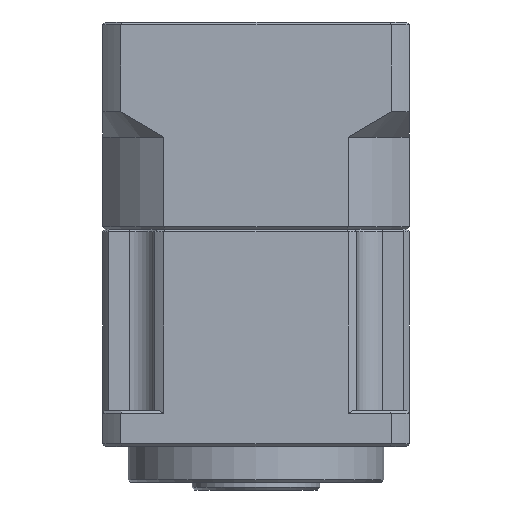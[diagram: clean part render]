
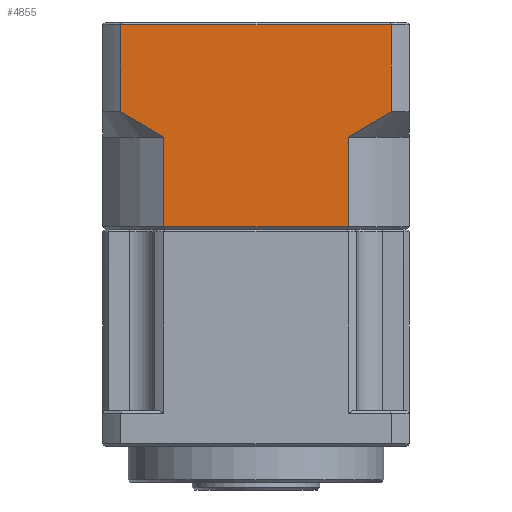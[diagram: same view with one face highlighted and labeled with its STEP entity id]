
A CAD part, front view. The second image highlights one B-rep face of the part: STEP entity #4855.
In plain terms, the highlighted planar face has unit normal (0, -1, 0).
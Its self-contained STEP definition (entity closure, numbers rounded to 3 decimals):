
#439 = LINE ( 'NONE', #63417, #80439 ) ;
#525 = EDGE_CURVE ( 'NONE', #92907, #13170, #67907, .T. ) ;
#1666 = CARTESIAN_POINT ( 'NONE',  ( -68.291, -7.256, 19.452 ) ) ;
#4446 = VERTEX_POINT ( 'NONE', #58551 ) ;
#4855 = ADVANCED_FACE ( 'NONE', ( #85847 ), #22156, .T. ) ;
#5202 = CARTESIAN_POINT ( 'NONE',  ( -18.121, -7.256, 0.675 ) ) ;
#7039 = ORIENTED_EDGE ( 'NONE', *, *, #18182, .F. ) ;
#9218 = EDGE_CURVE ( 'NONE', #61499, #39235, #41222, .T. ) ;
#9900 = CARTESIAN_POINT ( 'NONE',  ( -66.927, -7.256, 1.549 ) ) ;
#12057 = CARTESIAN_POINT ( 'NONE',  ( -23.806, -7.256, -39.775 ) ) ;
#12629 = VECTOR ( 'NONE', #65584, 1000. ) ;
#13113 = AXIS2_PLACEMENT_3D ( 'NONE', #35352, #72595, #29388 ) ;
#13170 = VERTEX_POINT ( 'NONE', #78546 ) ;
#14319 = CARTESIAN_POINT ( 'NONE',  ( -59.862, -7.256, -2.548 ) ) ;
#15142 = ORIENTED_EDGE ( 'NONE', *, *, #28683, .F. ) ;
#16237 = CARTESIAN_POINT ( 'NONE',  ( -59.862, -7.256, -2.548 ) ) ;
#18182 = EDGE_CURVE ( 'NONE', #4446, #92907, #439, .T. ) ;
#19230 = VERTEX_POINT ( 'NONE', #14319 ) ;
#19870 = CARTESIAN_POINT ( 'NONE',  ( -23.806, -7.256, -2.548 ) ) ;
#22156 = PLANE ( 'NONE',  #13113 ) ;
#23317 = DIRECTION ( 'NONE',  ( -1., 0., 0. ) ) ;
#28162 = ORIENTED_EDGE ( 'NONE', *, *, #525, .F. ) ;
#28683 = EDGE_CURVE ( 'NONE', #13170, #50201, #47135, .T. ) ;
#29054 = CARTESIAN_POINT ( 'NONE',  ( -15.376, -7.256, -39.775 ) ) ;
#29388 = DIRECTION ( 'NONE',  ( 0., 0., -1. ) ) ;
#30371 = CARTESIAN_POINT ( 'NONE',  ( -68.291, -7.256, 2.452 ) ) ;
#30991 = CARTESIAN_POINT ( 'NONE',  ( -65.547, -7.256, 0.675 ) ) ;
#32671 = LINE ( 'NONE', #50183, #77836 ) ;
#33308 = VECTOR ( 'NONE', #23317, 1000. ) ;
#34132 = CARTESIAN_POINT ( 'NONE',  ( -20.927, -7.256, -0.999 ) ) ;
#35352 = CARTESIAN_POINT ( 'NONE',  ( -11.834, -7.256, -20.548 ) ) ;
#36267 = DIRECTION ( 'NONE',  ( 0., 0., -1. ) ) ;
#39235 = VERTEX_POINT ( 'NONE', #69612 ) ;
#39919 = LINE ( 'NONE', #12057, #51303 ) ;
#41222 = LINE ( 'NONE', #58636, #33308 ) ;
#43117 = ORIENTED_EDGE ( 'NONE', *, *, #87132, .F. ) ;
#47135 = LINE ( 'NONE', #29054, #73122 ) ;
#49802 = VERTEX_POINT ( 'NONE', #19870 ) ;
#50183 = CARTESIAN_POINT ( 'NONE',  ( -59.862, -7.256, -39.775 ) ) ;
#50201 = VERTEX_POINT ( 'NONE', #70197 ) ;
#51303 = VECTOR ( 'NONE', #54650, 1000. ) ;
#51757 = DIRECTION ( 'NONE',  ( 0., 0., 1. ) ) ;
#52234 = ORIENTED_EDGE ( 'NONE', *, *, #59996, .F. ) ;
#54650 = DIRECTION ( 'NONE',  ( 0., 0., -1. ) ) ;
#54749 = CARTESIAN_POINT ( 'NONE',  ( -15.376, -7.256, 2.452 ) ) ;
#55449 = EDGE_CURVE ( 'NONE', #49802, #61499, #39919, .T. ) ;
#57122 = DIRECTION ( 'NONE',  ( 0., 0., 1. ) ) ;
#58551 = CARTESIAN_POINT ( 'NONE',  ( -68.291, -7.256, 2.452 ) ) ;
#58636 = CARTESIAN_POINT ( 'NONE',  ( -11.834, -7.256, -20.048 ) ) ;
#59996 = EDGE_CURVE ( 'NONE', #50201, #49802, #61883, .T. ) ;
#60248 = B_SPLINE_CURVE_WITH_KNOTS ( 'NONE', 3,
 ( #16237, #66692, #88030, #30991, #9900, #30371 ),
 .UNSPECIFIED., .F., .F.,
 ( 4, 2, 4 ),
 ( 0., 0.005, 0.01 ),
 .UNSPECIFIED. ) ;
#61499 = VERTEX_POINT ( 'NONE', #89307 ) ;
#61883 = B_SPLINE_CURVE_WITH_KNOTS ( 'NONE', 3,
 ( #54749, #69505, #5202, #34132, #91786, #76739 ),
 .UNSPECIFIED., .F., .F.,
 ( 4, 2, 4 ),
 ( 0., 0.005, 0.01 ),
 .UNSPECIFIED. ) ;
#62718 = EDGE_LOOP ( 'NONE', ( #15142, #28162, #7039, #72560, #43117, #88332, #85725, #52234 ) ) ;
#63417 = CARTESIAN_POINT ( 'NONE',  ( -68.291, -7.256, -39.775 ) ) ;
#65584 = DIRECTION ( 'NONE',  ( 1., 0., 0. ) ) ;
#66442 = EDGE_CURVE ( 'NONE', #19230, #4446, #60248, .T. ) ;
#66692 = CARTESIAN_POINT ( 'NONE',  ( -61.316, -7.256, -1.799 ) ) ;
#67907 = LINE ( 'NONE', #93239, #12629 ) ;
#69505 = CARTESIAN_POINT ( 'NONE',  ( -16.74, -7.256, 1.549 ) ) ;
#69612 = CARTESIAN_POINT ( 'NONE',  ( -59.862, -7.256, -20.048 ) ) ;
#70197 = CARTESIAN_POINT ( 'NONE',  ( -15.376, -7.256, 2.452 ) ) ;
#72560 = ORIENTED_EDGE ( 'NONE', *, *, #66442, .F. ) ;
#72595 = DIRECTION ( 'NONE',  ( 0., -1., 0. ) ) ;
#73122 = VECTOR ( 'NONE', #36267, 1000. ) ;
#76739 = CARTESIAN_POINT ( 'NONE',  ( -23.806, -7.256, -2.548 ) ) ;
#77836 = VECTOR ( 'NONE', #51757, 1000. ) ;
#78546 = CARTESIAN_POINT ( 'NONE',  ( -15.376, -7.256, 19.452 ) ) ;
#80439 = VECTOR ( 'NONE', #57122, 1000. ) ;
#85725 = ORIENTED_EDGE ( 'NONE', *, *, #55449, .F. ) ;
#85847 = FACE_OUTER_BOUND ( 'NONE', #62718, .T. ) ;
#87132 = EDGE_CURVE ( 'NONE', #39235, #19230, #32671, .T. ) ;
#88030 = CARTESIAN_POINT ( 'NONE',  ( -62.741, -7.256, -0.999 ) ) ;
#88332 = ORIENTED_EDGE ( 'NONE', *, *, #9218, .F. ) ;
#89307 = CARTESIAN_POINT ( 'NONE',  ( -23.806, -7.256, -20.048 ) ) ;
#91786 = CARTESIAN_POINT ( 'NONE',  ( -22.351, -7.256, -1.799 ) ) ;
#92907 = VERTEX_POINT ( 'NONE', #1666 ) ;
#93239 = CARTESIAN_POINT ( 'NONE',  ( -11.834, -7.256, 19.452 ) ) ;
